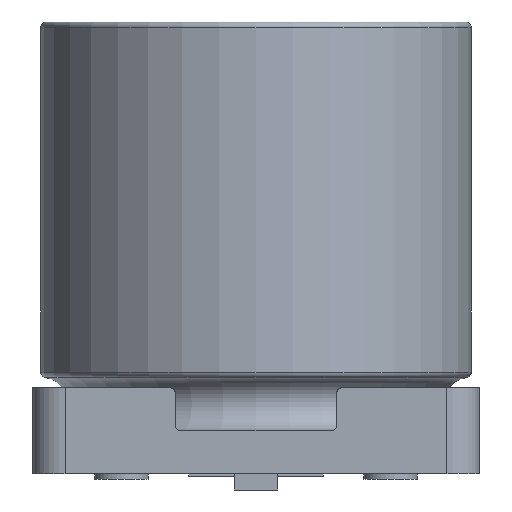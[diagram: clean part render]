
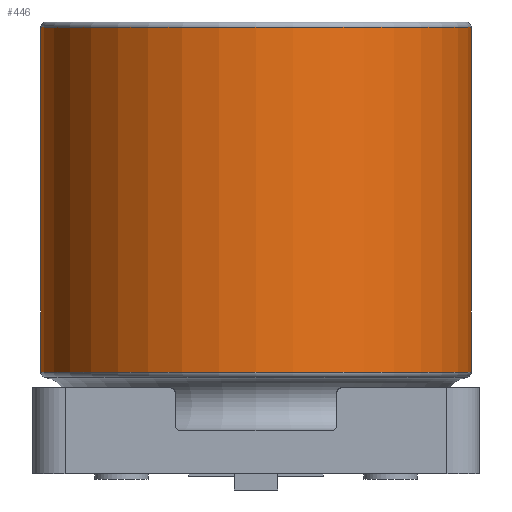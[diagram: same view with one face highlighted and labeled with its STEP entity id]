
A CAD part, left-side view. The second image highlights one B-rep face of the part: STEP entity #446.
In plain terms, the highlighted cylindrical face has radius 4 mm (diameter 8 mm), a full revolution.
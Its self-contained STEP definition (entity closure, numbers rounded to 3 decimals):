
#219=CYLINDRICAL_SURFACE('',#2487,4.);
#446=ADVANCED_FACE('',(#598,#599),#219,.T.);
#598=FACE_BOUND('',#672,.T.);
#599=FACE_BOUND('',#673,.T.);
#672=EDGE_LOOP('',(#1125));
#673=EDGE_LOOP('',(#1126));
#790=CIRCLE('',#2485,4.);
#791=CIRCLE('',#2486,4.);
#1125=ORIENTED_EDGE('',*,*,#1840,.T.);
#1126=ORIENTED_EDGE('',*,*,#1841,.T.);
#1591=VERTEX_POINT('',#3752);
#1592=VERTEX_POINT('',#3754);
#1840=EDGE_CURVE('',#1591,#1591,#790,.T.);
#1841=EDGE_CURVE('',#1592,#1592,#791,.T.);
#2485=AXIS2_PLACEMENT_3D('',#3751,#2909,#2910);
#2486=AXIS2_PLACEMENT_3D('',#3753,#2911,#2912);
#2487=AXIS2_PLACEMENT_3D('',#3755,#2913,#2914);
#2909=DIRECTION('',(0.,0.,1.));
#2910=DIRECTION('',(1.,0.,0.));
#2911=DIRECTION('',(0.,0.,-1.));
#2912=DIRECTION('',(-1.,0.,0.));
#2913=DIRECTION('',(0.,0.,-1.));
#2914=DIRECTION('',(-1.,0.,0.));
#3751=CARTESIAN_POINT('',(0.,0.,1.892));
#3752=CARTESIAN_POINT('',(4.,0.,1.892));
#3753=CARTESIAN_POINT('',(0.,0.,8.3));
#3754=CARTESIAN_POINT('',(-4.,0.,8.3));
#3755=CARTESIAN_POINT('',(0.,0.,0.));
